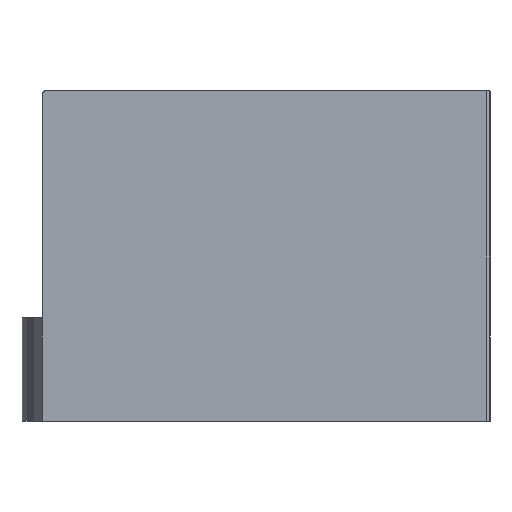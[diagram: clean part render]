
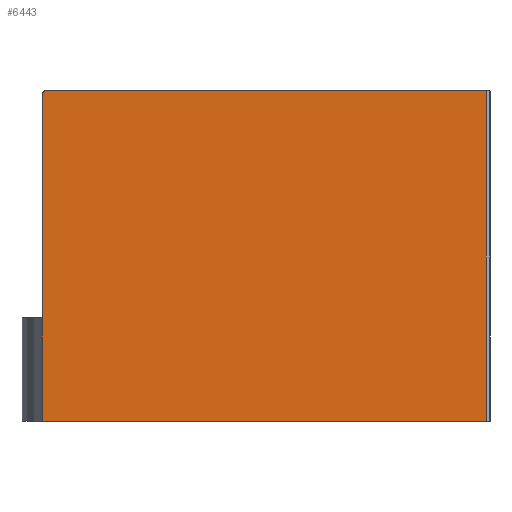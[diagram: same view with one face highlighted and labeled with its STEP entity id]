
A CAD part, left-side view. The second image highlights one B-rep face of the part: STEP entity #6443.
In plain terms, the highlighted planar face has unit normal (-1, 0, 0).
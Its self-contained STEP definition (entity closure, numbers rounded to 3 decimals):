
#413 = CARTESIAN_POINT ( 'NONE',  ( -30.5, 30.5, 22.5 ) ) ;
#836 = AXIS2_PLACEMENT_3D ( 'NONE', #1546, #9370, #17154 ) ;
#1254 = EDGE_CURVE ( 'NONE', #1445, #16319, #3982, .T. ) ;
#1445 = VERTEX_POINT ( 'NONE', #14155 ) ;
#1546 = CARTESIAN_POINT ( 'NONE',  ( -30.5, 30.5, 22.5 ) ) ;
#1558 = ORIENTED_EDGE ( 'NONE', *, *, #21385, .T. ) ;
#1826 = DIRECTION ( 'NONE',  ( 0., 0., -1. ) ) ;
#3129 = DIRECTION ( 'NONE',  ( -1., 0., 0. ) ) ;
#3982 = CIRCLE ( 'NONE', #19911, 0.5 ) ;
#5119 = CARTESIAN_POINT ( 'NONE',  ( -30.5, -30., 22.5 ) ) ;
#5249 = VECTOR ( 'NONE', #22088, 1000. ) ;
#5359 = VERTEX_POINT ( 'NONE', #8697 ) ;
#6443 = ADVANCED_FACE ( 'NONE', ( #11288 ), #19057, .F. ) ;
#6520 = LINE ( 'NONE', #14338, #5249 ) ;
#7700 = EDGE_CURVE ( 'NONE', #5359, #9637, #22614, .T. ) ;
#8232 = DIRECTION ( 'NONE',  ( 0., -1., 0. ) ) ;
#8697 = CARTESIAN_POINT ( 'NONE',  ( -30.5, -30., -22.5 ) ) ;
#8710 = ORIENTED_EDGE ( 'NONE', *, *, #9956, .T. ) ;
#9370 = DIRECTION ( 'NONE',  ( 1., 0., 0. ) ) ;
#9637 = VERTEX_POINT ( 'NONE', #12663 ) ;
#9956 = EDGE_CURVE ( 'NONE', #16319, #13120, #11578, .T. ) ;
#10187 = CARTESIAN_POINT ( 'NONE',  ( -30.5, 30.5, -22.5 ) ) ;
#10634 = VECTOR ( 'NONE', #12936, 1000. ) ;
#10956 = DIRECTION ( 'NONE',  ( 0., 1., 0. ) ) ;
#11288 = FACE_OUTER_BOUND ( 'NONE', #23419, .T. ) ;
#11578 = LINE ( 'NONE', #19347, #19259 ) ;
#11710 = ORIENTED_EDGE ( 'NONE', *, *, #16258, .F. ) ;
#12486 = VECTOR ( 'NONE', #8232, 1000. ) ;
#12663 = CARTESIAN_POINT ( 'NONE',  ( -30.5, -30., 22.5 ) ) ;
#12936 = DIRECTION ( 'NONE',  ( 0., 0., 1. ) ) ;
#13120 = VERTEX_POINT ( 'NONE', #10187 ) ;
#14155 = CARTESIAN_POINT ( 'NONE',  ( -30.5, 30., 22.5 ) ) ;
#14338 = CARTESIAN_POINT ( 'NONE',  ( -30.5, 30.5, -22.5 ) ) ;
#16258 = EDGE_CURVE ( 'NONE', #1445, #9637, #17928, .T. ) ;
#16319 = VERTEX_POINT ( 'NONE', #18180 ) ;
#17154 = DIRECTION ( 'NONE',  ( 0., 1., 0. ) ) ;
#17928 = LINE ( 'NONE', #413, #12486 ) ;
#18180 = CARTESIAN_POINT ( 'NONE',  ( -30.5, 30.5, 22. ) ) ;
#19057 = PLANE ( 'NONE',  #836 ) ;
#19259 = VECTOR ( 'NONE', #1826, 1000. ) ;
#19347 = CARTESIAN_POINT ( 'NONE',  ( -30.5, 30.5, 22.5 ) ) ;
#19911 = AXIS2_PLACEMENT_3D ( 'NONE', #20644, #3129, #10956 ) ;
#20644 = CARTESIAN_POINT ( 'NONE',  ( -30.5, 30., 22. ) ) ;
#21385 = EDGE_CURVE ( 'NONE', #13120, #5359, #6520, .T. ) ;
#22088 = DIRECTION ( 'NONE',  ( 0., -1., 0. ) ) ;
#22252 = ORIENTED_EDGE ( 'NONE', *, *, #1254, .T. ) ;
#22614 = LINE ( 'NONE', #5119, #10634 ) ;
#23419 = EDGE_LOOP ( 'NONE', ( #1558, #24450, #11710, #22252, #8710 ) ) ;
#24450 = ORIENTED_EDGE ( 'NONE', *, *, #7700, .T. ) ;
